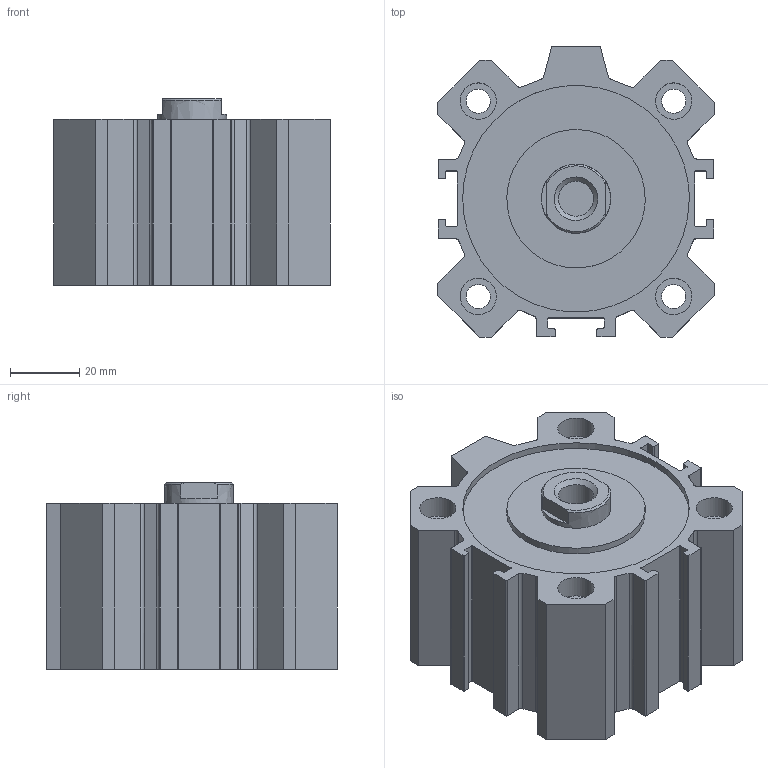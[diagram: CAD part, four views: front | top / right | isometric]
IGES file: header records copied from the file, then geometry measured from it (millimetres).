
Global section: file name: 1512_63_0010; native system: Autodesk Inventor 2014; preprocessor: unknown; author: A. Manieri; date: 20160907.135354; units: millimetre
Bounding box: 80 x 84 x 54 mm (x, y, z)
Volume: 210249.1 mm3; surface area: 59204.6 mm2
Topology: 2 solids, 2 shells, 164 faces, 438 edges, 296 vertices
Faces by surface type: bspline 164
